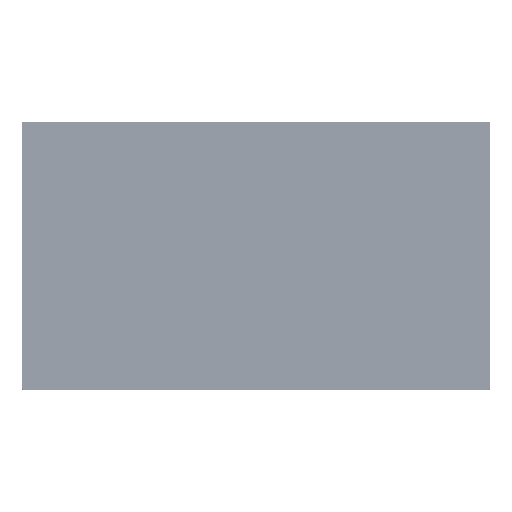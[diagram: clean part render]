
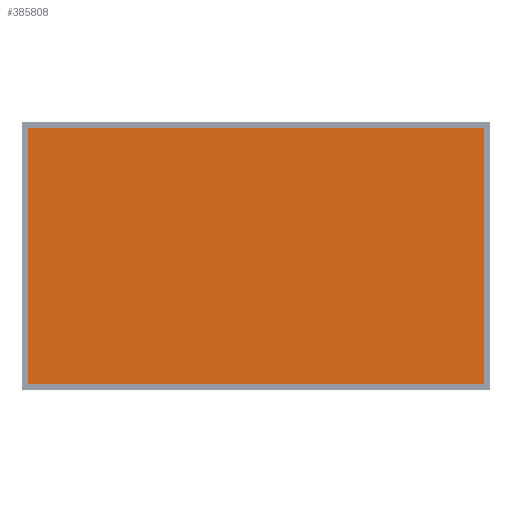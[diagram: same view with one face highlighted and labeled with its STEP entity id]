
A CAD part, top view. The second image highlights one B-rep face of the part: STEP entity #385808.
In plain terms, the highlighted planar face has unit normal (0, 0, 1).
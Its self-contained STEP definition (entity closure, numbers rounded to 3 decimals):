
#9105 = LINE ( 'NONE', #344730, #270108 ) ;
#15056 = VECTOR ( 'NONE', #362648, 1000. ) ;
#15875 = DIRECTION ( 'NONE',  ( 0.707, -0.707, 0. ) ) ;
#19003 = LINE ( 'NONE', #114877, #375229 ) ;
#23004 = VECTOR ( 'NONE', #285669, 1000. ) ;
#26503 = VERTEX_POINT ( 'NONE', #149593 ) ;
#26998 = EDGE_CURVE ( 'NONE', #146965, #149792, #9105, .T. ) ;
#28305 = CARTESIAN_POINT ( 'NONE',  ( -1109.7, -628.65, 0. ) ) ;
#34371 = LINE ( 'NONE', #156228, #15056 ) ;
#35091 = CARTESIAN_POINT ( 'NONE',  ( -1110.3, 628.05, 0. ) ) ;
#44158 = VERTEX_POINT ( 'NONE', #49662 ) ;
#45868 = CARTESIAN_POINT ( 'NONE',  ( -1110.3, -628.05, 0. ) ) ;
#49662 = CARTESIAN_POINT ( 'NONE',  ( -1109.7, 628.65, 0. ) ) ;
#65624 = VERTEX_POINT ( 'NONE', #361372 ) ;
#80973 = DIRECTION ( 'NONE',  ( 0.707, 0.707, 0. ) ) ;
#93809 = ORIENTED_EDGE ( 'NONE', *, *, #223633, .T. ) ;
#95418 = CARTESIAN_POINT ( 'NONE',  ( 1109.7, 628.65, 0. ) ) ;
#104999 = DIRECTION ( 'NONE',  ( 0., 1., 0. ) ) ;
#114877 = CARTESIAN_POINT ( 'NONE',  ( 1110.3, -628.05, 0. ) ) ;
#125722 = EDGE_CURVE ( 'NONE', #149792, #362514, #341686, .T. ) ;
#125839 = EDGE_CURVE ( 'NONE', #26503, #65624, #203585, .T. ) ;
#137275 = VERTEX_POINT ( 'NONE', #35091 ) ;
#146965 = VERTEX_POINT ( 'NONE', #365472 ) ;
#149593 = CARTESIAN_POINT ( 'NONE',  ( -1110.3, -628.05, 0. ) ) ;
#149792 = VERTEX_POINT ( 'NONE', #292269 ) ;
#154096 = DIRECTION ( 'NONE',  ( 1., 0., 0. ) ) ;
#156228 = CARTESIAN_POINT ( 'NONE',  ( -1110.3, 628.05, 0. ) ) ;
#165266 = VECTOR ( 'NONE', #154096, 1000. ) ;
#168850 = ORIENTED_EDGE ( 'NONE', *, *, #125722, .T. ) ;
#178151 = LINE ( 'NONE', #28305, #165266 ) ;
#189665 = AXIS2_PLACEMENT_3D ( 'NONE', #338632, #282596, #336666 ) ;
#199023 = ORIENTED_EDGE ( 'NONE', *, *, #26998, .T. ) ;
#203585 = LINE ( 'NONE', #45868, #303922 ) ;
#208101 = ORIENTED_EDGE ( 'NONE', *, *, #326882, .T. ) ;
#210268 = DIRECTION ( 'NONE',  ( -0.707, -0.707, 0. ) ) ;
#214354 = EDGE_CURVE ( 'NONE', #137275, #26503, #34371, .T. ) ;
#216546 = DIRECTION ( 'NONE',  ( -1., 0., 0. ) ) ;
#217824 = CARTESIAN_POINT ( 'NONE',  ( 1110.3, 628.05, 0. ) ) ;
#220876 = EDGE_CURVE ( 'NONE', #343305, #146965, #19003, .T. ) ;
#223633 = EDGE_CURVE ( 'NONE', #65624, #343305, #178151, .T. ) ;
#240266 = LINE ( 'NONE', #362166, #249603 ) ;
#242447 = ORIENTED_EDGE ( 'NONE', *, *, #214354, .T. ) ;
#247242 = CARTESIAN_POINT ( 'NONE',  ( 1109.7, -628.65, 0. ) ) ;
#249603 = VECTOR ( 'NONE', #210268, 1000. ) ;
#270108 = VECTOR ( 'NONE', #104999, 1000. ) ;
#274514 = LINE ( 'NONE', #310424, #300588 ) ;
#282596 = DIRECTION ( 'NONE',  ( 0., 0., -1. ) ) ;
#285669 = DIRECTION ( 'NONE',  ( -0.707, 0.707, 0. ) ) ;
#288123 = EDGE_CURVE ( 'NONE', #362514, #44158, #274514, .T. ) ;
#292269 = CARTESIAN_POINT ( 'NONE',  ( 1110.3, 628.05, 0. ) ) ;
#300588 = VECTOR ( 'NONE', #216546, 1000. ) ;
#303922 = VECTOR ( 'NONE', #15875, 1000. ) ;
#308672 = PLANE ( 'NONE',  #189665 ) ;
#310424 = CARTESIAN_POINT ( 'NONE',  ( 1109.7, 628.65, 0. ) ) ;
#326882 = EDGE_CURVE ( 'NONE', #44158, #137275, #240266, .T. ) ;
#331266 = ORIENTED_EDGE ( 'NONE', *, *, #288123, .T. ) ;
#336666 = DIRECTION ( 'NONE',  ( -1., 0., 0. ) ) ;
#338632 = CARTESIAN_POINT ( 'NONE',  ( 0., 0., 0. ) ) ;
#341686 = LINE ( 'NONE', #217824, #23004 ) ;
#343305 = VERTEX_POINT ( 'NONE', #247242 ) ;
#344730 = CARTESIAN_POINT ( 'NONE',  ( 1110.3, 628.05, 0. ) ) ;
#354460 = ORIENTED_EDGE ( 'NONE', *, *, #125839, .T. ) ;
#356809 = ORIENTED_EDGE ( 'NONE', *, *, #220876, .T. ) ;
#361372 = CARTESIAN_POINT ( 'NONE',  ( -1109.7, -628.65, 0. ) ) ;
#362166 = CARTESIAN_POINT ( 'NONE',  ( -1110.3, 628.05, 0. ) ) ;
#362301 = EDGE_LOOP ( 'NONE', ( #354460, #93809, #356809, #199023, #168850, #331266, #208101, #242447 ) ) ;
#362514 = VERTEX_POINT ( 'NONE', #95418 ) ;
#362648 = DIRECTION ( 'NONE',  ( 0., -1., 0. ) ) ;
#365472 = CARTESIAN_POINT ( 'NONE',  ( 1110.3, -628.05, 0. ) ) ;
#368624 = FACE_OUTER_BOUND ( 'NONE', #362301, .T. ) ;
#375229 = VECTOR ( 'NONE', #80973, 1000. ) ;
#385808 = ADVANCED_FACE ( 'NONE', ( #368624 ), #308672, .F. ) ;
